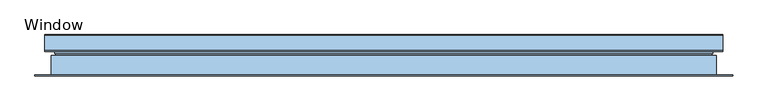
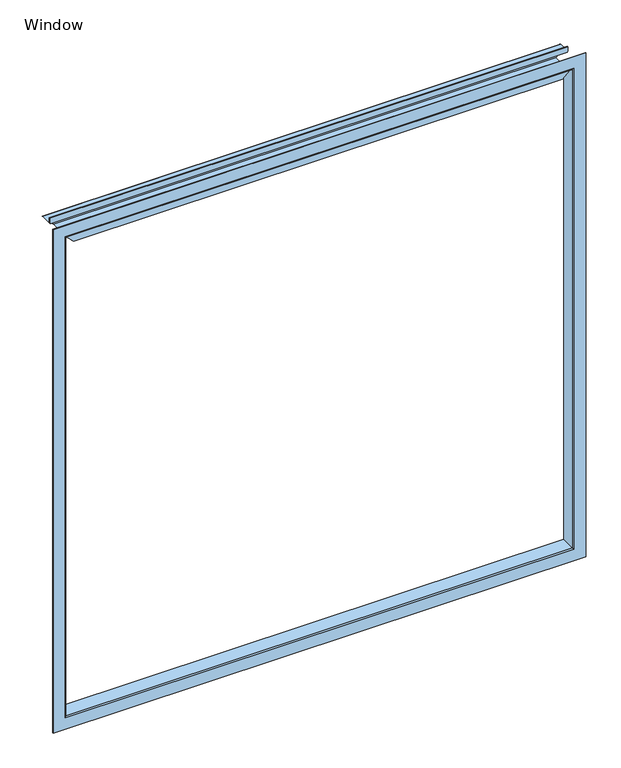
"""IFC4 building model written with IfcOpenShell, lengths in millimetres: window geometry, QO-V-QBISS_Window Module : Window."""

from ifc_helpers import new_model, si_unit, frame, origin, place, context, project, spatial, polyline, ellipse_curve, source, transform, mapped, element, save
from ifc_brep_helpers import plane_surface, cylinder_surface, revolved_surface, advanced_brep


def window_183e3072(model_context):
    return source(origin(), model_context, "Body", "AdvancedBrep", [
        advanced_brep(
        [(973.0, -46.7, 1987.5), (973.0, -46.7, 2007.4990835), (973.0, -48.7, 2007.4990835), (973.0, -48.7, 1987.5), (-1004.0, -48.7, 2007.4990835), (-1004.0, -46.7, 2007.4990835), (-1004.0, -46.7, 1987.5), (-1004.0, -48.7, 1987.5), (939.9523452, -75.0037405, 1954.4523452), (943.4523458, -75.0037405, 1957.9523458), (-974.4523458, -75.0037405, 1957.9523458), (-970.9523452, -75.0037405, 1954.4523452), (943.4523458, -76.5037405, 1957.9523458), (-974.4523458, -76.5037405, 1957.9523458), (944.9523458, -76.5037405, 1959.4523458), (-975.9523458, -76.5037405, 1959.4523458), (944.9523458, -72.6037405, 1959.4523458), (-975.9523458, -72.6037405, 1959.4523458), (943.4523458, -72.6037405, 1957.9523458), (-974.4523458, -72.6037405, 1957.9523458), (943.4523458, -73.8037405, 1957.9523458), (-974.4523458, -73.8037405, 1957.9523458), (939.9523458, -73.8037405, 1954.4523458), (-970.9523458, -73.8037405, 1954.4523458), (939.9523458, -65.7037405, 1954.4523458), (-970.9523458, -65.7037405, 1954.4523458), (943.4523458, -65.7037405, 1957.9523458), (-974.4523458, -65.7037405, 1957.9523458), (943.4523458, -66.9037405, 1957.9523458), (-974.4523458, -66.9037405, 1957.9523458), (944.9523458, -66.9037405, 1959.4523458), (-975.9523458, -66.9037405, 1959.4523458), (944.9523458, -63.0037405, 1959.4523458), (-975.9523458, -63.0037405, 1959.4523458), (943.4523458, -63.0037405, 1957.9523458), (-974.4523458, -63.0037405, 1957.9523458), (943.4523458, -64.5037405, 1957.9523458), (-974.4523458, -64.5037405, 1957.9523458), (939.9523459, -64.5037405, 1954.4523459), (-970.9523459, -64.5037405, 1954.4523459), (939.9523459, -55.4999986, 1954.4523459), (-970.9523459, -55.4999986, 1954.4523459), (942.8, -55.4999986, 1957.3), (-973.8, -55.4999986, 1957.3), (942.8, -22.4, 1957.3), (-973.8, -22.4, 1957.3), (970.9990835, -22.4, 1985.4990835), (-1001.9990835, -22.4, 1985.4990835), (970.9990835, -48.7, 1985.4990835), (-1001.9990835, -48.7, 1985.4990835), (973.0, -2.0, 1987.5), (-1004.0, -2.0, 1987.5), (971.0, 0.0, 1985.5), (-1002.0, 0.0, 1985.5), (917.0, 0.0, 1931.5), (-948.0, 0.0, 1931.5), (915.0, -2.0, 1929.5), (-946.0, -2.0, 1929.5), (915.0, -43.5, 1929.5), (-946.0, -43.5, 1929.5), (928.8, -43.5, 1943.3), (-959.8, -43.5, 1943.3), (928.8, -54.0, 1943.3), (-959.8, -54.0, 1943.3), (923.4, -54.0, 1937.9), (-954.4, -54.0, 1937.9), (923.4, -51.0, 1937.9), (-954.4, -51.0, 1937.9), (925.3, -51.0, 1939.8), (-956.3, -51.0, 1939.8), (925.3, -49.6, 1939.8), (-956.3, -49.6, 1939.8), (922.0, -49.6, 1936.5), (-953.0, -49.6, 1936.5), (922.0, -64.5037405, 1936.5), (-953.0, -64.5037405, 1936.5), (918.5513133, -64.5037405, 1933.0513133), (-949.5513133, -64.5037405, 1933.0513133), (918.5513133, -63.0037405, 1933.0513133), (-949.5513133, -63.0037405, 1933.0513133), (917.0513133, -63.0037405, 1931.5513133), (-948.0513133, -63.0037405, 1931.5513133), (917.0513133, -66.9037405, 1931.5513133), (-948.0513133, -66.9037405, 1931.5513133), (918.5513133, -66.9037405, 1933.0513133), (-949.5513133, -66.9037405, 1933.0513133), (918.5513133, -65.7037405, 1933.0513133), (-949.5513133, -65.7037405, 1933.0513133), (922.0513133, -65.7037405, 1936.5513133), (-953.0513133, -65.7037405, 1936.5513133), (922.0513133, -73.8037405, 1936.5513133), (-953.0513133, -73.8037405, 1936.5513133), (918.5513133, -73.8037405, 1933.0513133), (-949.5513133, -73.8037405, 1933.0513133), (918.5513133, -72.6037405, 1933.0513133), (-949.5513133, -72.6037405, 1933.0513133), (917.0513133, -72.6037405, 1931.5513133), (-948.0513133, -72.6037405, 1931.5513133), (917.0513133, -76.5037405, 1931.5513133), (-948.0513133, -76.5037405, 1931.5513133), (918.5513133, -76.5037405, 1933.0513133), (-949.5513133, -76.5037405, 1933.0513133), (918.5513133, -75.0037405, 1933.0513133), (-949.5513133, -75.0037405, 1933.0513133), (922.0513139, -75.0037405, 1936.5513139), (-953.0513139, -75.0037405, 1936.5513139), (922.0513139, -84.0037561, 1936.5513139), (-953.0513139, -84.0037561, 1936.5513139), (918.5018295, -84.0037561, 1933.0018295), (-949.5018295, -84.0037561, 1933.0018295), (918.5018295, -82.8037561, 1933.0018295), (-949.5018295, -82.8037561, 1933.0018295), (917.0018295, -82.8037561, 1931.5018295), (-948.0018295, -82.8037561, 1931.5018295), (917.0018295, -89.5037561, 1931.5018295), (-948.0018295, -89.5037561, 1931.5018295), (918.5018295, -89.5037561, 1933.0018295), (-949.5018295, -89.5037561, 1933.0018295), (918.5018295, -85.7037561, 1933.0018295), (-949.5018295, -85.7037561, 1933.0018295), (921.8018295, -85.7037561, 1936.3018295), (-952.8018295, -85.7037561, 1936.3018295), (921.8018295, -108.3037561, 1936.3018295), (-952.8018295, -108.3037561, 1936.3018295), (918.5018295, -108.3037561, 1933.0018295), (-949.5018295, -108.3037561, 1933.0018295), (918.5018295, -105.5037561, 1933.0018295), (-949.5018295, -105.5037561, 1933.0018295), (917.0018295, -105.5037561, 1931.5018295), (-948.0018295, -105.5037561, 1931.5018295), (917.0018295, -110.0037561, 1931.5018295), (-948.0018295, -110.0037561, 1931.5018295), (945.0018295, -110.0037561, 1959.5018295), (-976.0018295, -110.0037561, 1959.5018295), (945.0018295, -105.5037561, 1959.5018295), (-976.0018295, -105.5037561, 1959.5018295), (943.5018295, -105.5037561, 1958.0018295), (-974.5018295, -105.5037561, 1958.0018295), (943.5018295, -108.3037561, 1958.0018295), (-974.5018295, -108.3037561, 1958.0018295), (940.2018295, -108.3037561, 1954.7018295), (-971.2018295, -108.3037561, 1954.7018295), (940.2018295, -85.7037561, 1954.7018295), (-971.2018295, -85.7037561, 1954.7018295), (943.5018295, -85.7037561, 1958.0018295), (-974.5018295, -85.7037561, 1958.0018295), (943.5018295, -89.5037561, 1958.0018295), (-974.5018295, -89.5037561, 1958.0018295), (945.0018295, -89.5037561, 1959.5018295), (-976.0018295, -89.5037561, 1959.5018295), (945.0018295, -82.8037561, 1959.5018295), (-976.0018295, -82.8037561, 1959.5018295), (943.5018295, -82.8037561, 1958.0018295), (-974.5018295, -82.8037561, 1958.0018295), (943.5018295, -84.0037561, 1958.0018295), (-974.5018295, -84.0037561, 1958.0018295), (939.9523452, -84.0037561, 1954.4523452), (-970.9523452, -84.0037561, 1954.4523452), (942.8, -1.5, 1957.3), (971.5, -1.5, 1986.0), (-1002.5, -1.5, 1986.0), (-973.8, -1.5, 1957.3), (971.5, -20.7, 1986.0), (-1002.5, -20.7, 1986.0), (942.8, -20.7, 1957.3), (-973.8, -20.7, 1957.3), (930.8, -41.5, 1945.3), (916.7, -41.5, 1931.2), (-947.7, -41.5, 1931.2), (-961.8, -41.5, 1945.3), (916.7, -1.5, 1931.2), (-947.7, -1.5, 1931.2), (941.1, -1.5, 1955.6), (-972.1, -1.5, 1955.6), (941.1, -54.0, 1955.6), (-972.1, -54.0, 1955.6), (930.8, -54.0, 1945.3), (-961.8, -54.0, 1945.3), (923.7018295, -108.3037561, 1938.2018295), (923.7018295, -85.7037561, 1938.2018295), (-954.7018295, -85.7037561, 1938.2018295), (-954.7018295, -108.3037561, 1938.2018295), (938.3018295, -85.7037561, 1952.8018295), (-969.3018295, -85.7037561, 1952.8018295), (938.3018295, -108.3037561, 1952.8018295), (-969.3018295, -108.3037561, 1952.8018295)],
        [
            (0, 1),
            (1, 2),
            (2, 3),
            (3, 0),
            (4, 5),
            (5, 6),
            (6, 7),
            (7, 4),
            (8, 9),
            (9, 10),
            (10, 11),
            (11, 8),
            (9, 12),
            (12, 13),
            (13, 10),
            (12, 14),
            (14, 15),
            (15, 13),
            (14, 16),
            (16, 17),
            (17, 15),
            (16, 18),
            (18, 19),
            (19, 17),
            (18, 20),
            (20, 21),
            (21, 19),
            (20, 22),
            (22, 23),
            (23, 21),
            (22, 24),
            (24, 25),
            (25, 23),
            (24, 26),
            (26, 27),
            (27, 25),
            (26, 28),
            (28, 29),
            (29, 27),
            (28, 30),
            (30, 31),
            (31, 29),
            (30, 32),
            (32, 33),
            (33, 31),
            (32, 34),
            (34, 35),
            (35, 33),
            (34, 36),
            (36, 37),
            (37, 35),
            (36, 38),
            (38, 39),
            (39, 37),
            (38, 40),
            (40, 41),
            (41, 39),
            (40, 42),
            (42, 43),
            (43, 41),
            (42, 44),
            (44, 45),
            (45, 43),
            (44, 46),
            (46, 47),
            (47, 45),
            (46, 48),
            (48, 49),
            (49, 47),
            (2, 4),
            (7, 49),
            (48, 3),
            (1, 5),
            (0, 6),
            (0, 50),
            (50, 51),
            (51, 6),
            (50, 52, ellipse_curve(frame((971.0, -2.0, 1985.5), z_axis=(-0.7071067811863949, 0.0, 0.7071067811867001), x_axis=(0.7071067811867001, 0.0, 0.7071067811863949)), 2.8284271, 2.0)),
            (52, 53),
            (53, 51, ellipse_curve(frame((-1002.0, -2.0, 1985.5), z_axis=(0.7071067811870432, 0.0, 0.7071067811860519), x_axis=(0.7071067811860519, 0.0, -0.7071067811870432)), 2.8284271, 2.0)),
            (52, 54),
            (54, 55),
            (55, 53),
            (54, 56, ellipse_curve(frame((917.0, -2.0, 1931.5), z_axis=(-0.7071067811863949, 0.0, 0.7071067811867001), x_axis=(0.7071067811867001, 0.0, 0.7071067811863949)), 2.8284271, 2.0)),
            (56, 57),
            (57, 55, ellipse_curve(frame((-948.0, -2.0, 1931.5), z_axis=(0.7071067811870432, 0.0, 0.7071067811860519), x_axis=(0.7071067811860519, 0.0, -0.7071067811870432)), 2.8284271, 2.0)),
            (56, 58),
            (58, 59),
            (59, 57),
            (58, 60),
            (60, 61),
            (61, 59),
            (60, 62),
            (62, 63),
            (63, 61),
            (62, 64),
            (64, 65),
            (65, 63),
            (64, 66),
            (66, 67),
            (67, 65),
            (66, 68),
            (68, 69),
            (69, 67),
            (68, 70),
            (70, 71),
            (71, 69),
            (70, 72),
            (72, 73),
            (73, 71),
            (72, 74),
            (74, 75),
            (75, 73),
            (74, 76),
            (76, 77),
            (77, 75),
            (76, 78),
            (78, 79),
            (79, 77),
            (78, 80),
            (80, 81),
            (81, 79),
            (80, 82),
            (82, 83),
            (83, 81),
            (82, 84),
            (84, 85),
            (85, 83),
            (84, 86),
            (86, 87),
            (87, 85),
            (86, 88),
            (88, 89),
            (89, 87),
            (88, 90),
            (90, 91),
            (91, 89),
            (90, 92),
            (92, 93),
            (93, 91),
            (92, 94),
            (94, 95),
            (95, 93),
            (94, 96),
            (96, 97),
            (97, 95),
            (96, 98),
            (98, 99),
            (99, 97),
            (98, 100),
            (100, 101),
            (101, 99),
            (100, 102),
            (102, 103),
            (103, 101),
            (102, 104),
            (104, 105),
            (105, 103),
            (104, 106),
            (106, 107),
            (107, 105),
            (106, 108),
            (108, 109),
            (109, 107),
            (108, 110),
            (110, 111),
            (111, 109),
            (110, 112),
            (112, 113),
            (113, 111),
            (112, 114),
            (114, 115),
            (115, 113),
            (114, 116),
            (116, 117),
            (117, 115),
            (116, 118),
            (118, 119),
            (119, 117),
            (118, 120),
            (120, 121),
            (121, 119),
            (120, 122),
            (122, 123),
            (123, 121),
            (122, 124),
            (124, 125),
            (125, 123),
            (124, 126),
            (126, 127),
            (127, 125),
            (126, 128),
            (128, 129),
            (129, 127),
            (128, 130),
            (130, 131),
            (131, 129),
            (130, 132),
            (132, 133),
            (133, 131),
            (132, 134),
            (134, 135),
            (135, 133),
            (134, 136),
            (136, 137),
            (137, 135),
            (136, 138),
            (138, 139),
            (139, 137),
            (138, 140),
            (140, 141),
            (141, 139),
            (140, 142),
            (142, 143),
            (143, 141),
            (142, 144),
            (144, 145),
            (145, 143),
            (144, 146),
            (146, 147),
            (147, 145),
            (146, 148),
            (148, 149),
            (149, 147),
            (148, 150),
            (150, 151),
            (151, 149),
            (150, 152),
            (152, 153),
            (153, 151),
            (152, 154),
            (154, 155),
            (155, 153),
            (154, 156),
            (156, 157),
            (157, 155),
            (156, 8),
            (11, 157),
            (158, 159),
            (159, 160),
            (160, 161),
            (161, 158),
            (159, 162),
            (162, 163),
            (163, 160),
            (162, 164),
            (164, 165),
            (165, 163),
            (164, 158),
            (161, 165),
            (166, 167),
            (167, 168),
            (168, 169),
            (169, 166),
            (167, 170),
            (170, 171),
            (171, 168),
            (170, 172),
            (172, 173),
            (173, 171),
            (172, 174),
            (174, 175),
            (175, 173),
            (174, 176),
            (176, 177),
            (177, 175),
            (176, 166),
            (169, 177),
            (178, 179),
            (179, 180),
            (180, 181),
            (181, 178),
            (179, 182),
            (182, 183),
            (183, 180),
            (182, 184),
            (184, 185),
            (185, 183),
            (184, 178),
            (181, 185),
        ],
        [
            plane_surface(frame((973.0, 0.0, 2000.0), z_axis=(1.0, 0.0, 0.0), x_axis=(0.0, -1.0, 0.0))),
            plane_surface(frame((-1004.0, 0.0, 2000.0), z_axis=(-1.0, 0.0, 0.0), x_axis=(0.0, -1.0, 0.0))),
            plane_surface(frame((973.0, -75.0037405, 1957.9523458), z_axis=(0.0, -1.0, 0.0), x_axis=(-1.0, 0.0, 0.0))),
            plane_surface(frame((973.0, -76.5037405, 1957.9523458), z_axis=(0.0, 0.0, -1.0), x_axis=(-1.0, 0.0, 0.0))),
            plane_surface(frame((973.0, -76.5037405, 1959.4523458), z_axis=(0.0, -1.0, 0.0), x_axis=(-1.0, 0.0, 0.0))),
            plane_surface(frame((973.0, -72.6037405, 1959.4523458), z_axis=(0.0, 0.0, 1.0), x_axis=(-1.0, 0.0, 0.0))),
            plane_surface(frame((973.0, -72.6037405, 1957.9523458), z_axis=(0.0, 1.0, 0.0), x_axis=(-1.0, 0.0, 0.0))),
            plane_surface(frame((973.0, -73.8037405, 1957.9523458), z_axis=(0.0, 0.0, -1.0), x_axis=(-1.0, 0.0, 0.0))),
            plane_surface(frame((973.0, -73.8037405, 1954.4523458), z_axis=(0.0, 1.0, 0.0), x_axis=(-1.0, 0.0, 0.0))),
            plane_surface(frame((973.0, -65.7037405, 1954.4523458), z_axis=(0.0, 0.0, 1.0), x_axis=(-1.0, 0.0, 0.0))),
            plane_surface(frame((973.0, -65.7037405, 1957.9523458), z_axis=(0.0, -1.0, 0.0), x_axis=(-1.0, 0.0, 0.0))),
            plane_surface(frame((973.0, -66.9037405, 1957.9523458), z_axis=(0.0, 0.0, -1.0), x_axis=(-1.0, 0.0, 0.0))),
            plane_surface(frame((973.0, -66.9037405, 1959.4523458), z_axis=(0.0, -1.0, 0.0), x_axis=(-1.0, 0.0, 0.0))),
            plane_surface(frame((973.0, -63.0037405, 1959.4523458), z_axis=(0.0, 0.0, 1.0), x_axis=(-1.0, 0.0, 0.0))),
            plane_surface(frame((973.0, -63.0037405, 1957.9523458), z_axis=(0.0, 1.0, 0.0), x_axis=(-1.0, 0.0, 0.0))),
            plane_surface(frame((973.0, -64.5037405, 1957.9523458), z_axis=(0.0, 0.0, -1.0), x_axis=(-1.0, 0.0, 0.0))),
            plane_surface(frame((973.0, -64.5037405, 1954.4523459), z_axis=(0.0, 1.0, 0.0), x_axis=(-1.0, 0.0, 0.0))),
            plane_surface(frame((973.0, -55.4999986, 1954.4523459), z_axis=(0.0, 0.0, 1.0), x_axis=(-1.0, 0.0, 0.0))),
            plane_surface(frame((973.0, -55.4999986, 1957.3), z_axis=(0.0, -1.0, 0.0), x_axis=(-1.0, 0.0, 0.0))),
            plane_surface(frame((973.0, -22.4, 1957.3), z_axis=(0.0, 0.0, 1.0), x_axis=(-1.0, 0.0, 0.0))),
            plane_surface(frame((973.0, -22.4, 1985.4990835), z_axis=(0.0, -1.0, 0.0), x_axis=(-1.0, 0.0, 0.0))),
            plane_surface(frame((973.0, -48.7, 1985.4990835), z_axis=(0.0, 0.0, -1.0), x_axis=(-1.0, 0.0, 0.0))),
            plane_surface(frame((973.0, -48.7, 2007.4990835), z_axis=(0.0, -1.0, 0.0), x_axis=(-1.0, 0.0, 0.0))),
            plane_surface(frame((973.0, -46.7, 2007.4990835), z_axis=(0.0, 0.0, 1.0), x_axis=(-1.0, 0.0, 0.0))),
            plane_surface(frame((973.0, -46.7, 1987.5), z_axis=(0.0, 1.0, 0.0), x_axis=(-1.0, 0.0, 0.0))),
            plane_surface(frame((973.0, -2.0, 1987.5), z_axis=(0.0, 0.0, 1.0), x_axis=(-1.0, 0.0, 0.0))),
            cylinder_surface(frame((973.0, -2.0, 1985.5), z_axis=(1.0, 0.0, 0.0), x_axis=(0.0, -1.0, 0.0)), 2.0),
            plane_surface(frame((973.0, 0.0, 1931.5), z_axis=(0.0, 1.0, 0.0), x_axis=(-1.0, 0.0, 0.0))),
            cylinder_surface(frame((973.0, -2.0, 1931.5), z_axis=(1.0, 0.0, 0.0), x_axis=(0.0, -1.0, 0.0)), 2.0),
            plane_surface(frame((973.0, -43.5, 1929.5), z_axis=(0.0, 0.0, -1.0), x_axis=(-1.0, 0.0, 0.0))),
            plane_surface(frame((973.0, -43.5, 1943.3), z_axis=(0.0, -1.0, 0.0), x_axis=(-1.0, 0.0, 0.0))),
            plane_surface(frame((973.0, -54.0, 1943.3), z_axis=(0.0, 0.0, -1.0), x_axis=(-1.0, 0.0, 0.0))),
            plane_surface(frame((973.0, -54.0, 1937.9), z_axis=(0.0, 1.0, 0.0), x_axis=(-1.0, 0.0, 0.0))),
            plane_surface(frame((973.0, -51.0, 1937.9), z_axis=(0.0, 0.0, 1.0), x_axis=(-1.0, 0.0, 0.0))),
            plane_surface(frame((973.0, -51.0, 1939.8), z_axis=(0.0, -1.0, 0.0), x_axis=(-1.0, 0.0, 0.0))),
            plane_surface(frame((973.0, -49.6, 1939.8), z_axis=(0.0, 0.0, 1.0), x_axis=(-1.0, 0.0, 0.0))),
            plane_surface(frame((973.0, -49.6, 1936.5), z_axis=(0.0, 1.0, 0.0), x_axis=(-1.0, 0.0, 0.0))),
            plane_surface(frame((973.0, -64.5037405, 1936.5), z_axis=(0.0, 0.0, -1.0), x_axis=(-1.0, 0.0, 0.0))),
            plane_surface(frame((973.0, -64.5037405, 1933.0513133), z_axis=(0.0, 1.0, 0.0), x_axis=(-1.0, 0.0, 0.0))),
            plane_surface(frame((973.0, -63.0037405, 1933.0513133), z_axis=(0.0, 0.0, 1.0), x_axis=(-1.0, 0.0, 0.0))),
            plane_surface(frame((973.0, -63.0037405, 1931.5513133), z_axis=(0.0, 1.0, 0.0), x_axis=(-1.0, 0.0, 0.0))),
            plane_surface(frame((973.0, -66.9037405, 1931.5513133), z_axis=(0.0, 0.0, -1.0), x_axis=(-1.0, 0.0, 0.0))),
            plane_surface(frame((973.0, -66.9037405, 1933.0513133), z_axis=(0.0, -1.0, 0.0), x_axis=(-1.0, 0.0, 0.0))),
            plane_surface(frame((973.0, -65.7037405, 1933.0513133), z_axis=(0.0, 0.0, 1.0), x_axis=(-1.0, 0.0, 0.0))),
            plane_surface(frame((973.0, -65.7037405, 1936.5513133), z_axis=(0.0, -1.0, 0.0), x_axis=(-1.0, 0.0, 0.0))),
            plane_surface(frame((973.0, -73.8037405, 1936.5513133), z_axis=(0.0, 0.0, -1.0), x_axis=(-1.0, 0.0, 0.0))),
            plane_surface(frame((973.0, -73.8037405, 1933.0513133), z_axis=(0.0, 1.0, 0.0), x_axis=(-1.0, 0.0, 0.0))),
            plane_surface(frame((973.0, -72.6037405, 1933.0513133), z_axis=(0.0, 0.0, 1.0), x_axis=(-1.0, 0.0, 0.0))),
            plane_surface(frame((973.0, -72.6037405, 1931.5513133), z_axis=(0.0, 1.0, 0.0), x_axis=(-1.0, 0.0, 0.0))),
            plane_surface(frame((973.0, -76.5037405, 1931.5513133), z_axis=(0.0, 0.0, -1.0), x_axis=(-1.0, 0.0, 0.0))),
            plane_surface(frame((973.0, -76.5037405, 1933.0513133), z_axis=(0.0, -1.0, 0.0), x_axis=(-1.0, 0.0, 0.0))),
            plane_surface(frame((973.0, -75.0037405, 1933.0513133), z_axis=(0.0, 0.0, 1.0), x_axis=(-1.0, 0.0, 0.0))),
            plane_surface(frame((973.0, -75.0037405, 1936.5513139), z_axis=(0.0, -1.0, 0.0), x_axis=(-1.0, 0.0, 0.0))),
            plane_surface(frame((973.0, -84.0037561, 1936.5513139), z_axis=(0.0, 0.0, -1.0), x_axis=(-1.0, 0.0, 0.0))),
            plane_surface(frame((973.0, -84.0037561, 1933.0018295), z_axis=(0.0, 1.0, 0.0), x_axis=(-1.0, 0.0, 0.0))),
            plane_surface(frame((973.0, -82.8037561, 1933.0018295), z_axis=(0.0, 0.0, 1.0), x_axis=(-1.0, 0.0, 0.0))),
            plane_surface(frame((973.0, -82.8037561, 1931.5018295), z_axis=(0.0, 1.0, 0.0), x_axis=(-1.0, 0.0, 0.0))),
            plane_surface(frame((973.0, -89.5037561, 1931.5018295), z_axis=(0.0, 0.0, -1.0), x_axis=(-1.0, 0.0, 0.0))),
            plane_surface(frame((973.0, -89.5037561, 1933.0018295), z_axis=(0.0, -1.0, 0.0), x_axis=(-1.0, 0.0, 0.0))),
            plane_surface(frame((973.0, -85.7037561, 1933.0018295), z_axis=(0.0, 0.0, 1.0), x_axis=(-1.0, 0.0, 0.0))),
            plane_surface(frame((973.0, -85.7037561, 1936.3018295), z_axis=(0.0, -1.0, 0.0), x_axis=(-1.0, 0.0, 0.0))),
            plane_surface(frame((973.0, -108.3037561, 1936.3018295), z_axis=(0.0, 0.0, -1.0), x_axis=(-1.0, 0.0, 0.0))),
            plane_surface(frame((973.0, -108.3037561, 1933.0018295), z_axis=(0.0, 1.0, 0.0), x_axis=(-1.0, 0.0, 0.0))),
            plane_surface(frame((973.0, -105.5037561, 1933.0018295), z_axis=(0.0, 0.0, 1.0), x_axis=(-1.0, 0.0, 0.0))),
            plane_surface(frame((973.0, -105.5037561, 1931.5018295), z_axis=(0.0, 1.0, 0.0), x_axis=(-1.0, 0.0, 0.0))),
            plane_surface(frame((973.0, -110.0037561, 1931.5018295), z_axis=(0.0, 0.0, -1.0), x_axis=(-1.0, 0.0, 0.0))),
            plane_surface(frame((973.0, -110.0037561, 1959.5018295), z_axis=(0.0, -1.0, 0.0), x_axis=(-1.0, 0.0, 0.0))),
            plane_surface(frame((973.0, -105.5037561, 1959.5018295), z_axis=(0.0, 0.0, 1.0), x_axis=(-1.0, 0.0, 0.0))),
            plane_surface(frame((973.0, -105.5037561, 1958.0018295), z_axis=(0.0, 1.0, 0.0), x_axis=(-1.0, 0.0, 0.0))),
            plane_surface(frame((973.0, -108.3037561, 1958.0018295), z_axis=(0.0, 0.0, -1.0), x_axis=(-1.0, 0.0, 0.0))),
            plane_surface(frame((973.0, -108.3037561, 1954.7018295), z_axis=(0.0, 1.0, 0.0), x_axis=(-1.0, 0.0, 0.0))),
            plane_surface(frame((973.0, -85.7037561, 1954.7018295), z_axis=(0.0, 0.0, 1.0), x_axis=(-1.0, 0.0, 0.0))),
            plane_surface(frame((973.0, -85.7037561, 1958.0018295), z_axis=(0.0, -1.0, 0.0), x_axis=(-1.0, 0.0, 0.0))),
            plane_surface(frame((973.0, -89.5037561, 1958.0018295), z_axis=(0.0, 0.0, -1.0), x_axis=(-1.0, 0.0, 0.0))),
            plane_surface(frame((973.0, -89.5037561, 1959.5018295), z_axis=(0.0, -1.0, 0.0), x_axis=(-1.0, 0.0, 0.0))),
            plane_surface(frame((973.0, -82.8037561, 1959.5018295), z_axis=(0.0, 0.0, 1.0), x_axis=(-1.0, 0.0, 0.0))),
            plane_surface(frame((973.0, -82.8037561, 1958.0018295), z_axis=(0.0, 1.0, 0.0), x_axis=(-1.0, 0.0, 0.0))),
            plane_surface(frame((973.0, -84.0037561, 1958.0018295), z_axis=(0.0, 0.0, -1.0), x_axis=(-1.0, 0.0, 0.0))),
            plane_surface(frame((973.0, -84.0037561, 1954.4523452), z_axis=(0.0, 1.0, 0.0), x_axis=(-1.0, 0.0, 0.0))),
            plane_surface(frame((973.0, -75.0037405, 1954.4523452), z_axis=(0.0, 0.0, 1.0), x_axis=(-1.0, 0.0, 0.0))),
            plane_surface(frame((973.0, -1.5, 1986.0), z_axis=(0.0, -1.0, 0.0), x_axis=(-1.0, 0.0, 0.0))),
            plane_surface(frame((973.0, -20.7, 1986.0), z_axis=(0.0, 0.0, -1.0), x_axis=(-1.0, 0.0, 0.0))),
            plane_surface(frame((973.0, -20.7, 1957.3), z_axis=(0.0, 1.0, 0.0), x_axis=(-1.0, 0.0, 0.0))),
            plane_surface(frame((973.0, -1.5, 1957.3), z_axis=(0.0, 0.0, 1.0), x_axis=(-1.0, 0.0, 0.0))),
            plane_surface(frame((973.0, -41.5, 1931.2), z_axis=(0.0, 1.0, 0.0), x_axis=(-1.0, 0.0, 0.0))),
            plane_surface(frame((973.0, -1.5, 1931.2), z_axis=(0.0, 0.0, 1.0), x_axis=(-1.0, 0.0, 0.0))),
            plane_surface(frame((973.0, -1.5, 1955.6), z_axis=(0.0, -1.0, 0.0), x_axis=(-1.0, 0.0, 0.0))),
            plane_surface(frame((973.0, -54.0, 1955.6), z_axis=(0.0, 0.0, -1.0), x_axis=(-1.0, 0.0, 0.0))),
            plane_surface(frame((973.0, -54.0, 1945.3), z_axis=(0.0, 1.0, 0.0), x_axis=(-1.0, 0.0, 0.0))),
            plane_surface(frame((973.0, -41.5, 1945.3), z_axis=(0.0, 0.0, 1.0), x_axis=(-1.0, 0.0, 0.0))),
            plane_surface(frame((973.0, -85.7037561, 1938.2018295), z_axis=(0.0, 0.0, 1.0), x_axis=(-1.0, 0.0, 0.0))),
            plane_surface(frame((973.0, -85.7037561, 1952.8018295), z_axis=(0.0, -1.0, 0.0), x_axis=(-1.0, 0.0, 0.0))),
            plane_surface(frame((973.0, -108.3037561, 1952.8018295), z_axis=(0.0, 0.0, -1.0), x_axis=(-1.0, 0.0, 0.0))),
            plane_surface(frame((973.0, -108.3037561, 1938.2018295), z_axis=(0.0, 1.0, 0.0), x_axis=(-1.0, 0.0, 0.0))),
            plane_surface(frame((973.0294844, -180.0, 1987.5294844), z_axis=(0.7071067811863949, 0.0, -0.7071067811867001), x_axis=(0.0, 1.0, 0.0))),
            plane_surface(frame((-946.0, -120.0, 1929.5), z_axis=(-0.7071067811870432, 0.0, -0.7071067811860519), x_axis=(0.0, 1.0, 0.0))),
        ],
        [
            (0, [[1, 2, 3, 4]]),
            (1, [[5, 6, 7, 8]]),
            (2, [[9, 10, 11, 12]]),
            (3, [[13, 14, 15, -10]]),
            (4, [[16, 17, 18, -14]]),
            (5, [[19, 20, 21, -17]]),
            (6, [[22, 23, 24, -20]]),
            (7, [[25, 26, 27, -23]]),
            (8, [[28, 29, 30, -26]]),
            (9, [[31, 32, 33, -29]]),
            (10, [[34, 35, 36, -32]]),
            (11, [[37, 38, 39, -35]]),
            (12, [[40, 41, 42, -38]]),
            (13, [[43, 44, 45, -41]]),
            (14, [[46, 47, 48, -44]]),
            (15, [[49, 50, 51, -47]]),
            (16, [[52, 53, 54, -50]]),
            (17, [[55, 56, 57, -53]]),
            (18, [[58, 59, 60, -56]]),
            (19, [[61, 62, 63, -59]]),
            (20, [[64, 65, 66, -62]]),
            (21, [[67, 68, 69, -65]]),
            (22, [[70, -8, 71, -68, 72, -3]]),
            (23, [[-2, 73, -5, -70]]),
            (24, [[-1, 74, -6, -73]]),
            (25, [[-74, 75, 76, 77]]),
            (26, [[-76, 78, 79, 80]]),
            (27, [[81, 82, 83, -79]]),
            (28, [[84, 85, 86, -82]]),
            (29, [[87, 88, 89, -85]]),
            (30, [[90, 91, 92, -88]]),
            (31, [[93, 94, 95, -91]]),
            (32, [[96, 97, 98, -94]]),
            (33, [[99, 100, 101, -97]]),
            (34, [[102, 103, 104, -100]]),
            (35, [[105, 106, 107, -103]]),
            (36, [[108, 109, 110, -106]]),
            (37, [[111, 112, 113, -109]]),
            (38, [[114, 115, 116, -112]]),
            (39, [[117, 118, 119, -115]]),
            (40, [[120, 121, 122, -118]]),
            (41, [[123, 124, 125, -121]]),
            (42, [[126, 127, 128, -124]]),
            (43, [[129, 130, 131, -127]]),
            (44, [[132, 133, 134, -130]]),
            (45, [[135, 136, 137, -133]]),
            (46, [[138, 139, 140, -136]]),
            (47, [[141, 142, 143, -139]]),
            (48, [[144, 145, 146, -142]]),
            (49, [[147, 148, 149, -145]]),
            (50, [[150, 151, 152, -148]]),
            (51, [[153, 154, 155, -151]]),
            (52, [[156, 157, 158, -154]]),
            (53, [[159, 160, 161, -157]]),
            (54, [[162, 163, 164, -160]]),
            (55, [[165, 166, 167, -163]]),
            (56, [[168, 169, 170, -166]]),
            (57, [[171, 172, 173, -169]]),
            (58, [[174, 175, 176, -172]]),
            (59, [[177, 178, 179, -175]]),
            (60, [[180, 181, 182, -178]]),
            (61, [[183, 184, 185, -181]]),
            (62, [[186, 187, 188, -184]]),
            (63, [[189, 190, 191, -187]]),
            (64, [[192, 193, 194, -190]]),
            (65, [[195, 196, 197, -193]]),
            (66, [[198, 199, 200, -196]]),
            (67, [[201, 202, 203, -199]]),
            (68, [[204, 205, 206, -202]]),
            (69, [[207, 208, 209, -205]]),
            (70, [[210, 211, 212, -208]]),
            (71, [[213, 214, 215, -211]]),
            (72, [[216, 217, 218, -214]]),
            (73, [[219, 220, 221, -217]]),
            (74, [[222, 223, 224, -220]]),
            (75, [[225, 226, 227, -223]]),
            (76, [[228, 229, 230, -226]]),
            (77, [[231, 232, 233, -229]]),
            (78, [[234, 235, 236, -232]]),
            (79, [[237, -12, 238, -235]]),
            (80, [[239, 240, 241, 242]]),
            (81, [[243, 244, 245, -240]]),
            (82, [[246, 247, 248, -244]]),
            (83, [[249, -242, 250, -247]]),
            (84, [[251, 252, 253, 254]]),
            (85, [[255, 256, 257, -252]]),
            (86, [[258, 259, 260, -256]]),
            (87, [[261, 262, 263, -259]]),
            (88, [[264, 265, 266, -262]]),
            (89, [[267, -254, 268, -265]]),
            (90, [[269, 270, 271, 272]]),
            (91, [[273, 274, 275, -270]]),
            (92, [[276, 277, 278, -274]]),
            (93, [[279, -272, 280, -277]]),
            (94, [[-4, -72, -67, -64, -61, -58, -55, -52, -49, -46, -43, -40, -37, -34, -31, -28, -25, -22, -19, -16, -13, -9, -237, -234, -231, -228, -225, -222, -219, -216, -213, -210, -207, -204, -201, -198, -195, -192, -189, -186, -183, -180, -177, -174, -171, -168, -165, -162, -159, -156, -153, -150, -147, -144, -141, -138, -135, -132, -129, -126, -123, -120, -117, -114, -111, -108, -105, -102, -99, -96, -93, -90, -87, -84, -81, -78, -75], [-239, -249, -246, -243], [-251, -267, -264, -261, -258, -255], [-269, -279, -276, -273]]),
            (95, [[-7, -77, -80, -83, -86, -89, -92, -95, -98, -101, -104, -107, -110, -113, -116, -119, -122, -125, -128, -131, -134, -137, -140, -143, -146, -149, -152, -155, -158, -161, -164, -167, -170, -173, -176, -179, -182, -185, -188, -191, -194, -197, -200, -203, -206, -209, -212, -215, -218, -221, -224, -227, -230, -233, -236, -238, -11, -15, -18, -21, -24, -27, -30, -33, -36, -39, -42, -45, -48, -51, -54, -57, -60, -63, -66, -69, -71], [-241, -245, -248, -250], [-253, -257, -260, -263, -266, -268], [-271, -275, -278, -280]]),
        ],
    ),
        advanced_brep(
        [(-982.0, -60.0, 1965.0), (-982.0, -116.0, 1965.0), (-982.0, -116.0, 35.0), (-982.0, -60.0, 35.0), (-986.0, -120.0, 1969.0), (-986.0, -120.0, 31.0), (951.0, -116.0, 35.0), (951.0, -60.0, 35.0), (-984.0, -60.0, 1967.0), (953.0, -60.0, 1967.0), (953.0, -60.0, 33.0), (-984.0, -60.0, 33.0), (951.0, -60.0, 1965.0), (-984.0, -116.0, 1967.0), (-984.0, -116.0, 33.0), (953.0, -116.0, 33.0), (-986.0, -118.0, 1969.0), (-986.0, -118.0, 31.0), (955.0, -118.0, 31.0), (-1032.0, -118.0, 2015.0), (1001.0, -118.0, 2015.0), (1001.0, -118.0, -15.0), (-1032.0, -118.0, -15.0), (955.0, -118.0, 1969.0), (-1032.0, -120.0, 2015.0), (-1032.0, -120.0, -15.0), (1001.0, -120.0, -15.0), (1001.0, -120.0, 2015.0), (955.0, -120.0, 1969.0), (955.0, -120.0, 31.0), (951.0, -116.0, 1965.0), (953.0, -116.0, 1967.0)],
        [
            (0, 1),
            (1, 2),
            (2, 3),
            (3, 0),
            (1, 4, ellipse_curve(frame((-986.0, -116.0, 1969.0), z_axis=(-0.7071067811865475, 0.0, -0.7071067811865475), x_axis=(-0.7071067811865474, 0.0, 0.7071067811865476)), 5.6568542, 4.0)),
            (4, 5),
            (5, 2, ellipse_curve(frame((-986.0, -116.0, 31.0), z_axis=(-0.7071067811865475, 0.0, 0.7071067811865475), x_axis=(0.7071067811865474, 0.0, 0.7071067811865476)), 5.6568542, 4.0)),
            (2, 6),
            (6, 7),
            (7, 3),
            (8, 9),
            (9, 10),
            (10, 11),
            (11, 8),
            (7, 12),
            (12, 0),
            (13, 8),
            (11, 14),
            (14, 13),
            (10, 15),
            (15, 14),
            (16, 13, ellipse_curve(frame((-986.0, -116.0, 1969.0), z_axis=(0.7071067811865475, 0.0, 0.7071067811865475), x_axis=(0.7071067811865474, 0.0, -0.7071067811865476)), 2.8284271, 2.0)),
            (14, 17, ellipse_curve(frame((-986.0, -116.0, 31.0), z_axis=(0.7071067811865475, 0.0, -0.7071067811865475), x_axis=(-0.7071067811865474, 0.0, -0.7071067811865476)), 2.8284271, 2.0)),
            (17, 16),
            (15, 18, ellipse_curve(frame((955.0, -116.0, 31.0), z_axis=(0.7071067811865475, 0.0, 0.7071067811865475), x_axis=(0.7071067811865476, 0.0, -0.7071067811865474)), 2.8284271, 2.0)),
            (18, 17),
            (19, 20),
            (20, 21),
            (21, 22),
            (22, 19),
            (18, 23),
            (23, 16),
            (24, 19),
            (22, 25),
            (25, 24),
            (21, 26),
            (26, 25),
            (26, 27),
            (27, 24),
            (4, 28),
            (28, 29),
            (29, 5),
            (29, 6, ellipse_curve(frame((955.0, -116.0, 31.0), z_axis=(-0.7071067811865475, 0.0, -0.7071067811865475), x_axis=(-0.7071067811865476, 0.0, 0.7071067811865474)), 5.6568542, 4.0)),
            (6, 30),
            (30, 12),
            (9, 31),
            (31, 15),
            (31, 23, ellipse_curve(frame((955.0, -116.0, 1969.0), z_axis=(-0.7071067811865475, 0.0, 0.7071067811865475), x_axis=(0.7071067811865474, 0.0, 0.7071067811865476)), 2.8284271, 2.0)),
            (20, 27),
            (28, 30, ellipse_curve(frame((955.0, -116.0, 1969.0), z_axis=(0.7071067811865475, 0.0, -0.7071067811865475), x_axis=(-0.7071067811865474, 0.0, -0.7071067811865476)), 5.6568542, 4.0)),
            (30, 1),
            (13, 31),
        ],
        [
            plane_surface(frame((-982.0, -116.0, 1965.0), z_axis=(1.0, 0.0, 0.0), x_axis=(0.0, 0.0, -1.0))),
            cylinder_surface(frame((-986.0, -116.0, 1965.0), z_axis=(0.0, 0.0, 1.0), x_axis=(0.0, -1.0, 0.0)), 4.0),
            plane_surface(frame((-982.0, -116.0, 35.0), z_axis=(0.0, 0.0, 1.0), x_axis=(1.0, 0.0, 0.0))),
            plane_surface(frame((951.0, -60.0, 1965.0), z_axis=(0.0, 1.0, 0.0), x_axis=(-1.0, 0.0, 0.0))),
            plane_surface(frame((-984.0, -60.0, 1967.0), z_axis=(-1.0, 0.0, 0.0), x_axis=(0.0, 0.0, -1.0))),
            plane_surface(frame((-984.0, -60.0, 33.0), z_axis=(0.0, 0.0, -1.0), x_axis=(1.0, 0.0, 0.0))),
            revolved_surface(polyline([(-986.0, -118.0, 29.000000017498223), (-986.0, -118.0, 1970.9999999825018)]), (-986.0, -116.0, 1965.0), (0.0, 0.0, -1.0)),
            revolved_surface(polyline([(956.9999999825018, -118.0, 31.0), (-987.9999999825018, -118.0, 31.0)]), (-982.0, -116.0, 31.0), (1.0, 0.0, 0.0)),
            plane_surface(frame((955.0, -118.0, 1969.0), z_axis=(0.0, 1.0, 0.0), x_axis=(-1.0, 0.0, 0.0))),
            plane_surface(frame((-1032.0, -118.0, 2015.0), z_axis=(-1.0, 0.0, 0.0), x_axis=(0.0, 0.0, -1.0))),
            plane_surface(frame((-1032.0, -118.0, -15.0), z_axis=(0.0, 0.0, -1.0), x_axis=(1.0, 0.0, 0.0))),
            plane_surface(frame((1001.0, -120.0, 2015.0), z_axis=(0.0, -1.0, 0.0), x_axis=(-1.0, 0.0, 0.0))),
            cylinder_surface(frame((-982.0, -116.0, 31.0), z_axis=(-1.0, 0.0, 0.0), x_axis=(0.0, -1.0, 0.0)), 4.0),
            plane_surface(frame((951.0, -116.0, 35.0), z_axis=(-1.0, 0.0, 0.0), x_axis=(0.0, 0.0, 1.0))),
            plane_surface(frame((953.0, -60.0, 33.0), z_axis=(1.0, 0.0, 0.0), x_axis=(0.0, 0.0, 1.0))),
            revolved_surface(polyline([(955.0, -118.0, 1970.9999999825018), (955.0, -118.0, 29.0000000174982)]), (955.0, -116.0, 35.0), (0.0, 0.0, 1.0)),
            plane_surface(frame((1001.0, -118.0, -15.0), z_axis=(1.0, 0.0, 0.0), x_axis=(0.0, 0.0, 1.0))),
            cylinder_surface(frame((955.0, -116.0, 35.0), z_axis=(0.0, 0.0, -1.0), x_axis=(0.0, -1.0, 0.0)), 4.0),
            plane_surface(frame((951.0, -116.0, 1965.0), z_axis=(0.0, 0.0, -1.0), x_axis=(-1.0, 0.0, 0.0))),
            plane_surface(frame((953.0, -60.0, 1967.0), z_axis=(0.0, 0.0, 1.0), x_axis=(-1.0, 0.0, 0.0))),
            revolved_surface(polyline([(-987.9999999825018, -118.0, 1969.0), (956.9999999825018, -118.0, 1969.0)]), (951.0, -116.0, 1969.0), (-1.0, 0.0, 0.0)),
            plane_surface(frame((1001.0, -118.0, 2015.0), z_axis=(0.0, 0.0, 1.0), x_axis=(-1.0, 0.0, 0.0))),
            cylinder_surface(frame((951.0, -116.0, 1969.0), z_axis=(1.0, 0.0, 0.0), x_axis=(0.0, -1.0, 0.0)), 4.0),
        ],
        [
            (0, [[1, 2, 3, 4]]),
            (1, [[5, 6, 7, -2]]),
            (2, [[-3, 8, 9, 10]]),
            (3, [[11, 12, 13, 14], [-10, 15, 16, -4]]),
            (4, [[17, -14, 18, 19]]),
            (5, [[-18, -13, 20, 21]]),
            (6, [[22, -19, 23, 24]]),
            (7, [[-23, -21, 25, 26]]),
            (8, [[27, 28, 29, 30], [-26, 31, 32, -24]]),
            (9, [[33, -30, 34, 35]]),
            (10, [[-34, -29, 36, 37]]),
            (11, [[-37, 38, 39, -35], [40, 41, 42, -6]]),
            (12, [[-7, -42, 43, -8]]),
            (13, [[-9, 44, 45, -15]]),
            (14, [[-20, -12, 46, 47]]),
            (15, [[-25, -47, 48, -31]]),
            (16, [[-36, -28, 49, -38]]),
            (17, [[-43, -41, 50, -44]]),
            (18, [[-45, 51, -1, -16]]),
            (19, [[-46, -11, -17, 52]]),
            (20, [[-48, -52, -22, -32]]),
            (21, [[-49, -27, -33, -39]]),
            (22, [[-50, -40, -5, -51]]),
        ],
    ),
    ])


if __name__ == "__main__":
    model = new_model("IFC4")
    model_context = context("Model", 3, world=origin())
    ifc_project = project(units=[si_unit("LENGTHUNIT", "METRE", prefix="MILLI")], contexts=[model_context])
    site = spatial("IfcSite", under=ifc_project)
    building = spatial("IfcBuilding", under=site)
    placement = place(None, origin())
    window_shape = window_183e3072(model_context)
    element("IfcWindow", 1, ObjectType="QO-V-QBISS_Window Module : Window", at=placement, inside=building, context=model_context, shape_type="MappedRepresentation", body=[
        mapped(window_shape, transform((0.0, 0.0, 0.0), x_axis=(1.0, 0.0, 0.0), y_axis=(0.0, 1.0, 0.0), z_axis=(0.0, 0.0, 1.0))),
    ])
    save(model, "model.ifc")
